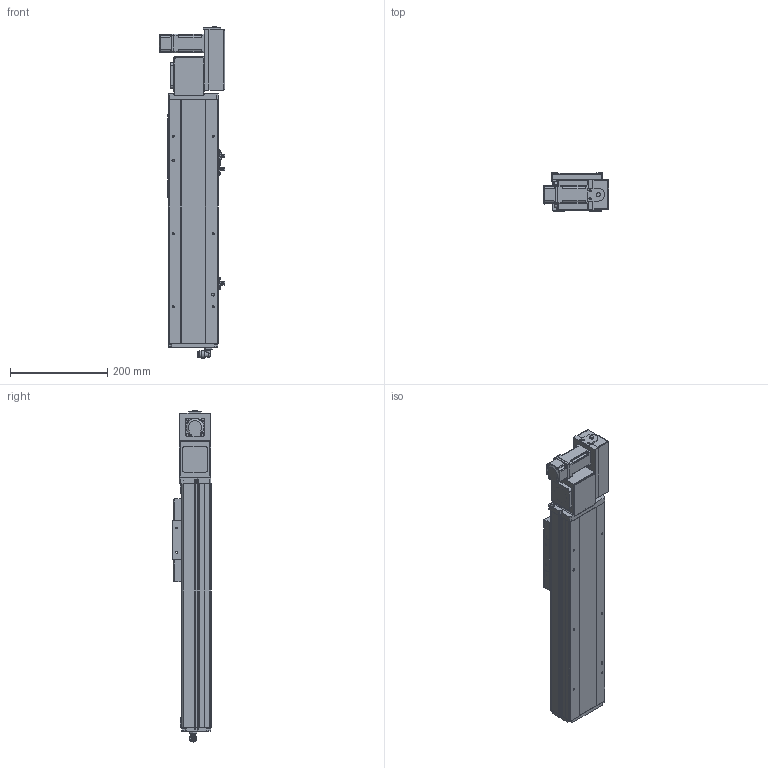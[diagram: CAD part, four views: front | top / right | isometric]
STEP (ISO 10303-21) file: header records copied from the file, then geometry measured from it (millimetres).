
FILE_DESCRIPTION (( 'STEP AP214' ), '1' );
FILE_NAME ('TPE10-L32-250-R-T10-C4.STEP', '2023-03-13T07:40:39', ( '' ), ( '' ), 'SwSTEP 2.0', 'SolidWorks 2020', '' );
FILE_SCHEMA (( 'AUTOMOTIVE_DESIGN' ));
Length unit declared in the file: millimetre
Products named in the file (15): 葩璃 TPE10-L-002 耜裔ZTMT-102B-04^TPE10-L32-R-T10-C4; 葩璃 侂狟100W^TPE10-L32-R-T10-C4; 葩璃 pm-t65-672^TPE10-L32-R-T10-C4; TPE10-L32-250-R-T10-C4; 葩璃 TPF10-L-008 耜醱啣^TPE10-L32-R-T10-C4; hexagon head bolts-full thread gb_GB_FASTENER_BOLT_STBAB A M5X16-N; 葩璃 TPT10-L-009 萇儂啣^TPE10-L32-R-T10-C4_100W; 葩璃 TPE10 賑雄殤 TPE10^TPE10-L32-R-T10-C4; hex nuts, style 1-grades ab gb_GB_FASTENER_NUT_SNAB1 M3-N; 葩璃 TPE10-L-001 菁釱MZ-102A-01^TPE10-L32-R-T10-C4; 葩璃 TPE10-007 々湍釱MZ-169x88^TPE10-L32-R-T10-C4; 葩璃 PL8-02^TPE10-L32-R-T10-C4; 葩璃 詩湍75^TPE10-L32-R-T10-C4; hexagon socket head cap screws gb_GB_FASTENER_SCREWS_HSHCS M3X6-N; 葩璃 TPF10 詩湍揤啣 TPF10 12^TPE10-L32-R-T10-C4
Assembly tree (28 placements, depth 2):
  TPE10-L32-250-R-T10-C4
    葩璃 TPE10-L-001 菁釱MZ-102A-01^TPE10-L32-R-T10-C4
    葩璃 TPE10-L-002 耜裔ZTMT-102B-04^TPE10-L32-R-T10-C4  x2
    葩璃 詩湍75^TPE10-L32-R-T10-C4
    葩璃 TPE10-007 々湍釱MZ-169x88^TPE10-L32-R-T10-C4
    葩璃 TPF10-L-008 耜醱啣^TPE10-L32-R-T10-C4
    葩璃 TPE10 賑雄殤 TPE10^TPE10-L32-R-T10-C4
    葩璃 TPF10 詩湍揤啣 TPF10 12^TPE10-L32-R-T10-C4  x2
    葩璃 TPT10-L-009 萇儂啣^TPE10-L32-R-T10-C4_100W
    葩璃 pm-t65-672^TPE10-L32-R-T10-C4  x3
    葩璃 PL8-02^TPE10-L32-R-T10-C4
    葩璃 侂狟100W^TPE10-L32-R-T10-C4
    hexagon socket head cap screws gb_GB_FASTENER_SCREWS_HSHCS M3X6-N  x6
    hex nuts, style 1-grades ab gb_GB_FASTENER_NUT_SNAB1 M3-N  x6
    hexagon head bolts-full thread gb_GB_FASTENER_BOLT_STBAB A M5X16-N
Bounding box: 134.23 x 78.5 x 682 mm (x, y, z)
Volume: 2090533.9 mm3; surface area: 605058.2 mm2
Topology: 36 solids, 36 shells, 1588 faces, 4046 edges, 2564 vertices
Faces by surface type: plane 899, cylinder 473, cone 164, torus 26, bspline 24, sphere 2
Entity records: 36752 total; most frequent: CARTESIAN_POINT 7749, DIRECTION 5756, ORIENTED_EDGE 5584, EDGE_CURVE 2792, AXIS2_PLACEMENT_3D 2021, VERTEX_POINT 1791, VECTOR 1714, LINE 1714
